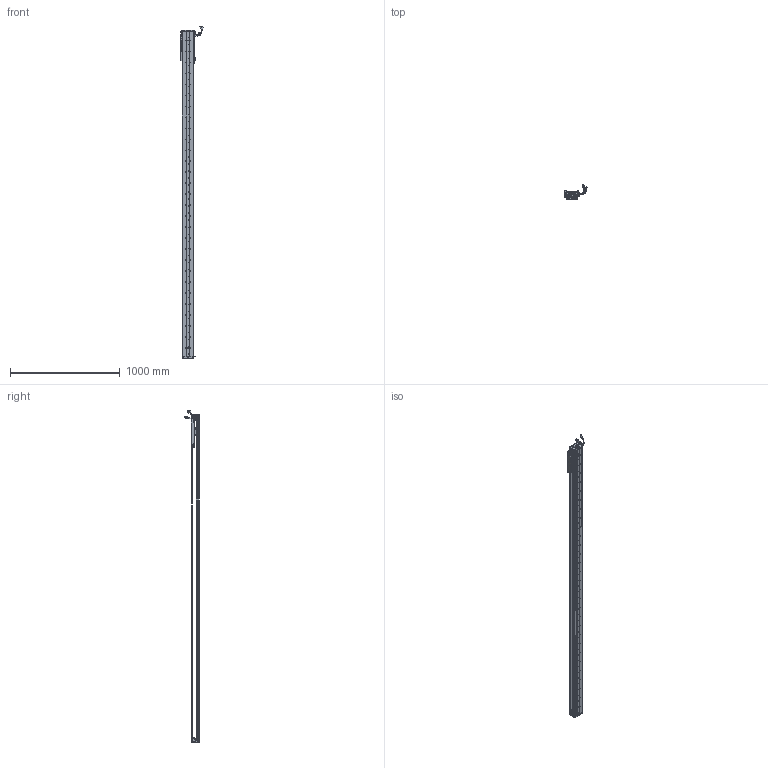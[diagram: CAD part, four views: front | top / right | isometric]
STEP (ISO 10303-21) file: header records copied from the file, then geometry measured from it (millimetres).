
FILE_DESCRIPTION (( 'STEP AP203' ), '1' );
FILE_NAME ('Z3-RY100D-1-L500-B-K.SLDASM_2650.step', '2021-05-17T02:52:43', ( '盈信电脑' ), ( '东莞市道滘镇水果街19号' ), 'SwSTEP 2.0', 'SolidWorks 2016', '' );
FILE_SCHEMA (( 'CONFIG_CONTROL_DESIGN' ));
Length unit declared in the file: millimetre
Products named in the file (36): SHIELDPLATE; SCREW-M1.7-1; HARNESS-Part-2; Z-RY100D覜茼んえ; Z-100詩湍傷裔啣; HARNESS; 100-Z-臏賑輸盄裔(21遴); 140蚥薯蝶輸; COVER-Part-1; 080黍杅芛假蚾釱21遴; SEAL-Part-1; SEAL; 140雄赽晤鎢ん堤盄; LABEL; Z3-RY100D-500-倰第菁釱_2650; 榋妏寠巭燃_暯_M2_2; Z3-RY100-L500詩湍90mm遵_2650; Z3-RY100铝滑块（21款）; 覜茼ん672; SCREW-M1.6-3; PBU_SHEET; HOLDER0; Z-RY100D詩湍狟揤裔; SCALE; Z3-RY100D-1-L500-B-K.SLDASM_2650; SCALE-Part-1; Z-RY100D詩湍奻揤裔; SCREW-M1.6-1; PSLH080_PSLF2; COVER; HARNESS-Part-1; SCREW-M1.6; SCREW-M1.6-2; SCREW-M1.7; SCALE-Part-2; LABEL-Part-1
Assembly tree (43 placements, depth 4):
  Z3-RY100D-1-L500-B-K.SLDASM_2650
    Z3-RY100D-500-倰第菁釱_2650
    Z3-RY100铝滑块（21款）
    PSLH080_PSLF2
      SCALE
        SCALE-Part-1
        SCALE-Part-2
      HARNESS
        HARNESS-Part-1
        HARNESS-Part-2
      LABEL
        LABEL-Part-1
      COVER
        COVER-Part-1
      SEAL
        SEAL-Part-1
      榋妏寠巭燃_暯_M2_2
      SHIELDPLATE
      SCREW-M1.7
      SCREW-M1.7-1
      PBU_SHEET
      SCREW-M1.6
      SCREW-M1.6-1
      SCREW-M1.6-2
      SCREW-M1.6-3
      HOLDER0
    080黍杅芛假蚾釱21遴
    Z-100詩湍傷裔啣  x2
    140蚥薯蝶輸  x2
    覜茼ん672  x3
    Z-RY100D覜茼んえ  x3
    100-Z-臏賑輸盄裔(21遴)
    140雄赽晤鎢ん堤盄
    Z3-RY100-L500詩湍90mm遵_2650
    Z-RY100D詩湍狟揤裔  x2
    Z-RY100D詩湍奻揤裔  x2
Bounding box: 205.79 x 136.11 x 3020.43 mm (x, y, z)
Volume: 5457165.6 mm3; surface area: 2154625.1 mm2
Topology: 38 solids, 38 shells, 3089 faces, 8479 edges, 5420 vertices
Faces by surface type: cylinder 1546, plane 1195, cone 226, torus 69, bspline 53
Entity records: 90281 total; most frequent: CARTESIAN_POINT 18881, DIRECTION 14601, ORIENTED_EDGE 13838, EDGE_CURVE 6919, AXIS2_PLACEMENT_3D 5508, VERTEX_POINT 4488, VECTOR 3585, LINE 3585
